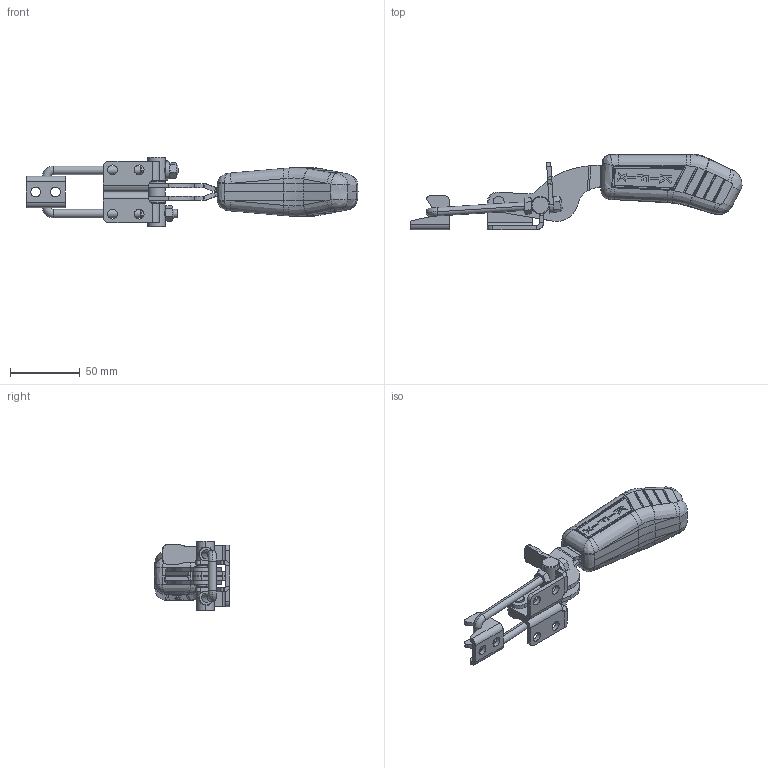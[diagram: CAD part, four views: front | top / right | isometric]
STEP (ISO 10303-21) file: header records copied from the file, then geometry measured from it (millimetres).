
FILE_DESCRIPTION (( 'STEP AP203' ), '1' );
FILE_NAME ('KF-133 D.STEP', '2014-08-20T17:18:55', ( 'Ricardo' ), ( '' ), 'SwSTEP 2.0', 'SolidWorks 2013', '' );
FILE_SCHEMA (( 'CONFIG_CONTROL_DESIGN' ));
Length unit declared in the file: millimetre
Products named in the file (13): 01.10045_Esquerda; KF-133 D; 16.20033; 03.20017; 11.50001; 11.50015; 15.10024; 02.12036_Direita; 15.10025; 02.12036_Esquerda; 07.60002; 01.10045_Direita; 06.50023
Assembly tree (14 placements, depth 2):
  KF-133 D
    02.12036_Direita
    02.12036_Esquerda
    01.10045_Direita
    01.10045_Esquerda
    16.20033
    03.20017
    11.50001  x2
    11.50015  x2
    15.10024
    15.10025
    07.60002
    06.50023
Bounding box: 237.96 x 54.24 x 50 mm (x, y, z)
Volume: 124465.3 mm3; surface area: 48982.7 mm2
Topology: 14 solids, 14 shells, 722 faces, 1800 edges, 1114 vertices
Faces by surface type: plane 255, cylinder 183, bspline 163, cone 62, sphere 52, torus 7
Entity records: 25854 total; most frequent: CARTESIAN_POINT 9725, ORIENTED_EDGE 3352, DIRECTION 2646, EDGE_CURVE 1676, VERTEX_POINT 1046, AXIS2_PLACEMENT_3D 1014, EDGE_LOOP 736, FACE_OUTER_BOUND 676
